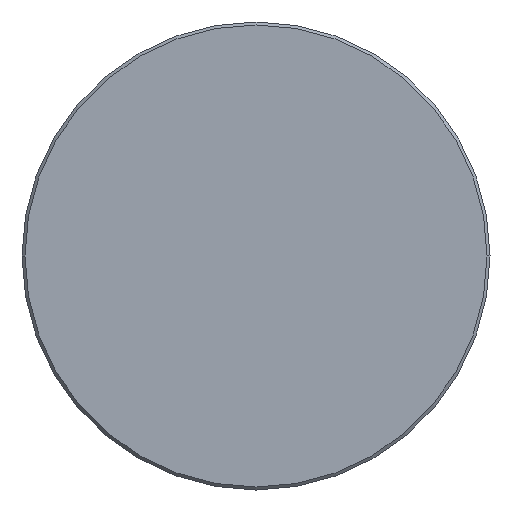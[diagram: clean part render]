
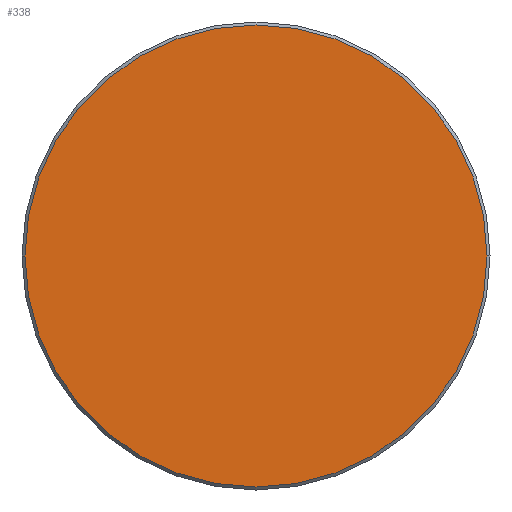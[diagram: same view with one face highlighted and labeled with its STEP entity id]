
A CAD part, left-side view. The second image highlights one B-rep face of the part: STEP entity #338.
In plain terms, the highlighted planar face has unit normal (-1, 0, 0).
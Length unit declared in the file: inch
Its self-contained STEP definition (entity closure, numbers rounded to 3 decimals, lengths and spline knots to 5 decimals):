
#12 = VERTEX_POINT ( 'NONE', #249 ) ;
#14 = EDGE_LOOP ( 'NONE', ( #171, #286 ) ) ;
#21 = CIRCLE ( 'NONE', #359, 0.3085 ) ;
#31 = DIRECTION ( 'NONE',  ( -1., 0., 0. ) ) ;
#57 = DIRECTION ( 'NONE',  ( 0., -1., 0. ) ) ;
#60 = CARTESIAN_POINT ( 'NONE',  ( 0., 0., 0. ) ) ;
#80 = FACE_OUTER_BOUND ( 'NONE', #14, .T. ) ;
#90 = AXIS2_PLACEMENT_3D ( 'NONE', #292, #95, #214 ) ;
#95 = DIRECTION ( 'NONE',  ( -1., 0., 0. ) ) ;
#139 = CARTESIAN_POINT ( 'NONE',  ( 0., 0.3085, 0. ) ) ;
#140 = AXIS2_PLACEMENT_3D ( 'NONE', #258, #31, #57 ) ;
#171 = ORIENTED_EDGE ( 'NONE', *, *, #190, .T. ) ;
#188 = CIRCLE ( 'NONE', #140, 0.3085 ) ;
#190 = EDGE_CURVE ( 'NONE', #296, #12, #188, .T. ) ;
#212 = PLANE ( 'NONE',  #90 ) ;
#214 = DIRECTION ( 'NONE',  ( 0., -1., 0. ) ) ;
#247 = EDGE_CURVE ( 'NONE', #12, #296, #21, .T. ) ;
#249 = CARTESIAN_POINT ( 'NONE',  ( 0., -0.3085, 0. ) ) ;
#258 = CARTESIAN_POINT ( 'NONE',  ( 0., 0., 0. ) ) ;
#259 = DIRECTION ( 'NONE',  ( 0., -1., 0. ) ) ;
#281 = DIRECTION ( 'NONE',  ( -1., 0., 0. ) ) ;
#286 = ORIENTED_EDGE ( 'NONE', *, *, #247, .T. ) ;
#292 = CARTESIAN_POINT ( 'NONE',  ( 0., 0., 0. ) ) ;
#296 = VERTEX_POINT ( 'NONE', #139 ) ;
#338 = ADVANCED_FACE ( 'NONE', ( #80 ), #212, .T. ) ;
#359 = AXIS2_PLACEMENT_3D ( 'NONE', #60, #281, #259 ) ;
